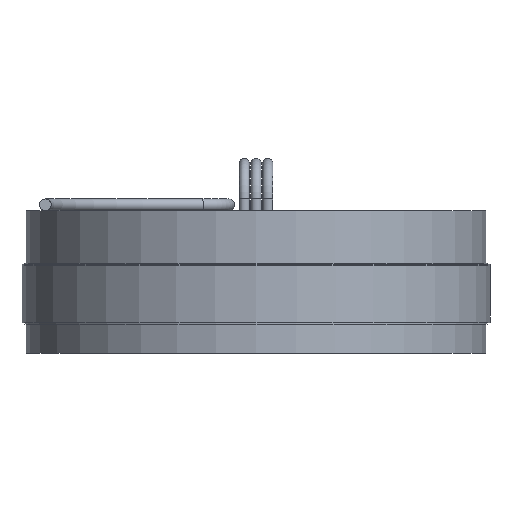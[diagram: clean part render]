
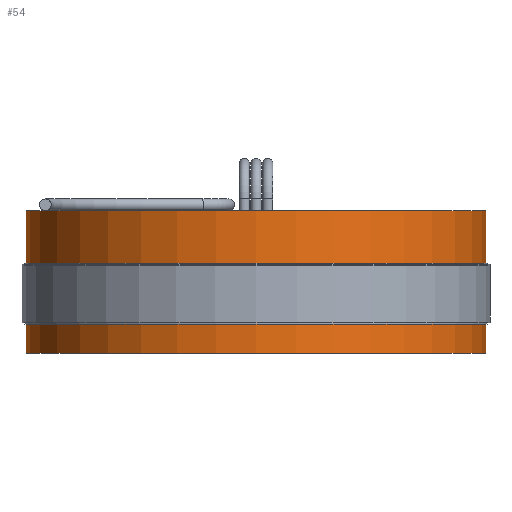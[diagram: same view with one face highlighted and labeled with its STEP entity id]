
A CAD part, front view. The second image highlights one B-rep face of the part: STEP entity #54.
In plain terms, the highlighted cylindrical face has radius 49.911 mm (diameter 99.822 mm), a full revolution.
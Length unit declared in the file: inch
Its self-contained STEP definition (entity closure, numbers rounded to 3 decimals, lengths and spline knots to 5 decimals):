
#54 = ADVANCED_FACE ( 'NONE', ( #1068, #908 ), #872, .T. ) ;
#58 = CARTESIAN_POINT ( 'NONE',  ( 0., 0., -0.51 ) ) ;
#91 = CARTESIAN_POINT ( 'NONE',  ( 0., 0., -0.51 ) ) ;
#110 = DIRECTION ( 'NONE',  ( 0., 0., 1. ) ) ;
#140 = CARTESIAN_POINT ( 'NONE',  ( 1.965, 0., 0.71 ) ) ;
#233 = ORIENTED_EDGE ( 'NONE', *, *, #1293, .F. ) ;
#248 = AXIS2_PLACEMENT_3D ( 'NONE', #882, #110, #529 ) ;
#363 = CARTESIAN_POINT ( 'NONE',  ( 1.965, 0., -0.51 ) ) ;
#382 = DIRECTION ( 'NONE',  ( 1., 0., 0. ) ) ;
#393 = AXIS2_PLACEMENT_3D ( 'NONE', #91, #652, #1227 ) ;
#459 = VERTEX_POINT ( 'NONE', #140 ) ;
#467 = EDGE_LOOP ( 'NONE', ( #791 ) ) ;
#529 = DIRECTION ( 'NONE',  ( 1., 0., 0. ) ) ;
#630 = CIRCLE ( 'NONE', #393, 1.965 ) ;
#652 = DIRECTION ( 'NONE',  ( 0., 0., 1. ) ) ;
#715 = AXIS2_PLACEMENT_3D ( 'NONE', #58, #1176, #382 ) ;
#768 = VERTEX_POINT ( 'NONE', #363 ) ;
#791 = ORIENTED_EDGE ( 'NONE', *, *, #1335, .T. ) ;
#872 = CYLINDRICAL_SURFACE ( 'NONE', #715, 1.965 ) ;
#882 = CARTESIAN_POINT ( 'NONE',  ( 0., 0., 0.71 ) ) ;
#908 = FACE_OUTER_BOUND ( 'NONE', #1044, .T. ) ;
#915 = CIRCLE ( 'NONE', #248, 1.965 ) ;
#1044 = EDGE_LOOP ( 'NONE', ( #233 ) ) ;
#1068 = FACE_OUTER_BOUND ( 'NONE', #467, .T. ) ;
#1176 = DIRECTION ( 'NONE',  ( 0., 0., 1. ) ) ;
#1227 = DIRECTION ( 'NONE',  ( 1., 0., 0. ) ) ;
#1293 = EDGE_CURVE ( 'NONE', #459, #459, #915, .T. ) ;
#1335 = EDGE_CURVE ( 'NONE', #768, #768, #630, .T. ) ;
